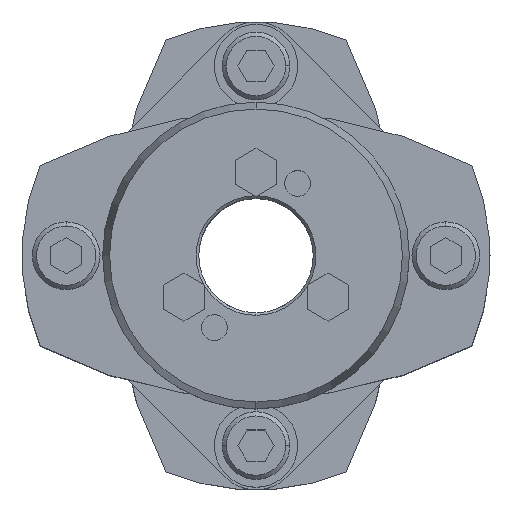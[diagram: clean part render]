
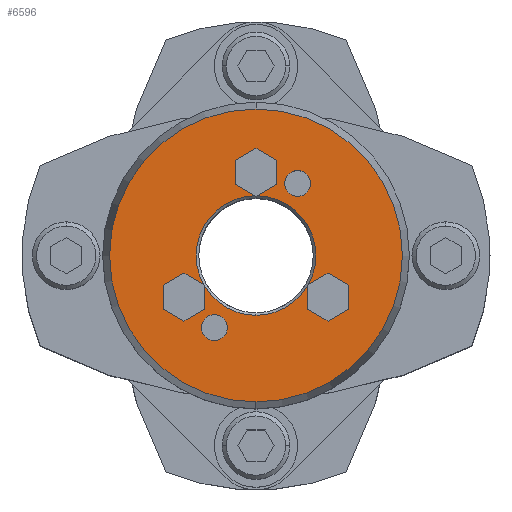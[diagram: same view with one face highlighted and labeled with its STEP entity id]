
A CAD part, top view. The second image highlights one B-rep face of the part: STEP entity #6596.
In plain terms, the highlighted planar face has unit normal (0, 0, 1).
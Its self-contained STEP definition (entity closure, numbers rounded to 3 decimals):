
#1694=CARTESIAN_POINT('',(0.,-11.5,52.0));
#1695=VERTEX_POINT('',#1694);
#1702=CARTESIAN_POINT('',(9.856,-5.925,52.0));
#1703=VERTEX_POINT('',#1702);
#1704=CARTESIAN_POINT('',(0.,0.,52.0));
#1705=DIRECTION('',(0.0,0.0,1.0));
#1706=DIRECTION('',(0.0,1.0,0.0));
#1707=AXIS2_PLACEMENT_3D('',#1704,#1705,#1706);
#1708=CIRCLE('',#1707,11.5);
#1709=EDGE_CURVE('',#1695,#1703,#1708,.T.);
#1711=CARTESIAN_POINT('',(10.059,-5.574,52.0));
#1712=VERTEX_POINT('',#1711);
#1720=CARTESIAN_POINT('',(0.203,11.498,52.0));
#1721=VERTEX_POINT('',#1720);
#1722=CARTESIAN_POINT('',(0.,0.,52.0));
#1723=DIRECTION('',(0.0,0.0,1.0));
#1724=DIRECTION('',(0.0,1.0,0.0));
#1725=AXIS2_PLACEMENT_3D('',#1722,#1723,#1724);
#1726=CIRCLE('',#1725,11.5);
#1727=EDGE_CURVE('',#1712,#1721,#1726,.T.);
#1892=CARTESIAN_POINT('',(0.,-28.16,52.0));
#1893=VERTEX_POINT('',#1892);
#1900=CARTESIAN_POINT('',(0.,28.16,52.0));
#1901=VERTEX_POINT('',#1900);
#1902=CARTESIAN_POINT('',(0.,0.,52.0));
#1903=DIRECTION('',(0.0,0.0,-1.0));
#1904=DIRECTION('',(0.0,-1.0,0.0));
#1905=AXIS2_PLACEMENT_3D('',#1902,#1903,#1904);
#1906=CIRCLE('',#1905,28.16);
#1907=EDGE_CURVE('',#1893,#1901,#1906,.T.);
#2150=CARTESIAN_POINT('',(8.,16.356,52.0));
#2151=VERTEX_POINT('',#2150);
#2167=CARTESIAN_POINT('',(8.,11.356,52.0));
#2168=VERTEX_POINT('',#2167);
#2175=CARTESIAN_POINT('',(8.,13.856,52.0));
#2176=DIRECTION('',(0.0,0.0,-1.0));
#2177=DIRECTION('',(0.0,1.0,0.0));
#2178=AXIS2_PLACEMENT_3D('',#2175,#2176,#2177);
#2179=CIRCLE('',#2178,2.5);
#2180=EDGE_CURVE('',#2151,#2168,#2179,.T.);
#2192=CARTESIAN_POINT('',(-8.,-11.356,52.0));
#2193=VERTEX_POINT('',#2192);
#2209=CARTESIAN_POINT('',(-8.,-16.356,52.0));
#2210=VERTEX_POINT('',#2209);
#2217=CARTESIAN_POINT('',(-8.,-13.856,52.0));
#2218=DIRECTION('',(0.0,0.0,-1.0));
#2219=DIRECTION('',(0.0,1.0,0.0));
#2220=AXIS2_PLACEMENT_3D('',#2217,#2218,#2219);
#2221=CIRCLE('',#2220,2.5);
#2222=EDGE_CURVE('',#2193,#2210,#2221,.T.);
#5022=CARTESIAN_POINT('',(13.856,-3.381,52.0));
#5023=VERTEX_POINT('',#5022);
#5030=CARTESIAN_POINT('',(10.059,-5.574,52.0));
#5031=DIRECTION('',(0.866,0.5,0.0));
#5032=VECTOR('',#5031,4.385);
#5033=LINE('',#5030,#5032);
#5034=EDGE_CURVE('',#1712,#5023,#5033,.T.);
#5066=CARTESIAN_POINT('',(17.856,-5.691,52.0));
#5067=VERTEX_POINT('',#5066);
#5074=CARTESIAN_POINT('',(13.856,-3.381,52.0));
#5075=DIRECTION('',(0.866,-0.5,0.0));
#5076=VECTOR('',#5075,4.619);
#5077=LINE('',#5074,#5076);
#5078=EDGE_CURVE('',#5023,#5067,#5077,.T.);
#5097=CARTESIAN_POINT('',(17.856,-10.309,52.0));
#5098=VERTEX_POINT('',#5097);
#5105=CARTESIAN_POINT('',(17.856,-5.691,52.0));
#5106=DIRECTION('',(0.0,-1.0,0.0));
#5107=VECTOR('',#5106,4.619);
#5108=LINE('',#5105,#5107);
#5109=EDGE_CURVE('',#5067,#5098,#5108,.T.);
#5128=CARTESIAN_POINT('',(13.856,-12.619,52.0));
#5129=VERTEX_POINT('',#5128);
#5136=CARTESIAN_POINT('',(17.856,-10.309,52.0));
#5137=DIRECTION('',(-0.866,-0.5,0.0));
#5138=VECTOR('',#5137,4.619);
#5139=LINE('',#5136,#5138);
#5140=EDGE_CURVE('',#5098,#5129,#5139,.T.);
#5159=CARTESIAN_POINT('',(9.856,-10.309,52.0));
#5160=VERTEX_POINT('',#5159);
#5167=CARTESIAN_POINT('',(13.856,-12.619,52.0));
#5168=DIRECTION('',(-0.866,0.5,0.0));
#5169=VECTOR('',#5168,4.619);
#5170=LINE('',#5167,#5169);
#5171=EDGE_CURVE('',#5129,#5160,#5170,.T.);
#5195=CARTESIAN_POINT('',(9.856,-10.309,52.0));
#5196=DIRECTION('',(0.0,1.0,0.0));
#5197=VECTOR('',#5196,4.385);
#5198=LINE('',#5195,#5197);
#5199=EDGE_CURVE('',#5160,#1703,#5198,.T.);
#5245=CARTESIAN_POINT('',(0.,20.619,52.0));
#5246=VERTEX_POINT('',#5245);
#5253=CARTESIAN_POINT('',(-4.,18.309,52.0));
#5254=VERTEX_POINT('',#5253);
#5255=CARTESIAN_POINT('',(-4.,18.309,52.0));
#5256=DIRECTION('',(0.866,0.5,0.0));
#5257=VECTOR('',#5256,4.619);
#5258=LINE('',#5255,#5257);
#5259=EDGE_CURVE('',#5254,#5246,#5258,.T.);
#5283=CARTESIAN_POINT('',(4.,18.309,52.0));
#5284=VERTEX_POINT('',#5283);
#5291=CARTESIAN_POINT('',(0.,20.619,52.0));
#5292=DIRECTION('',(0.866,-0.5,0.0));
#5293=VECTOR('',#5292,4.619);
#5294=LINE('',#5291,#5293);
#5295=EDGE_CURVE('',#5246,#5284,#5294,.T.);
#5314=CARTESIAN_POINT('',(4.,13.691,52.0));
#5315=VERTEX_POINT('',#5314);
#5322=CARTESIAN_POINT('',(4.,18.309,52.0));
#5323=DIRECTION('',(0.0,-1.0,0.0));
#5324=VECTOR('',#5323,4.619);
#5325=LINE('',#5322,#5324);
#5326=EDGE_CURVE('',#5284,#5315,#5325,.T.);
#5359=CARTESIAN_POINT('',(4.,13.691,52.0));
#5360=DIRECTION('',(-0.866,-0.5,0.0));
#5361=VECTOR('',#5360,4.385);
#5362=LINE('',#5359,#5361);
#5363=EDGE_CURVE('',#5315,#1721,#5362,.T.);
#5382=CARTESIAN_POINT('',(-4.,13.691,52.0));
#5383=VERTEX_POINT('',#5382);
#5390=CARTESIAN_POINT('',(-0.203,11.498,52.0));
#5391=VERTEX_POINT('',#5390);
#5392=CARTESIAN_POINT('',(-0.203,11.498,52.0));
#5393=DIRECTION('',(-0.866,0.5,0.0));
#5394=VECTOR('',#5393,4.385);
#5395=LINE('',#5392,#5394);
#5396=EDGE_CURVE('',#5391,#5383,#5395,.T.);
#5420=CARTESIAN_POINT('',(-4.,13.691,52.0));
#5421=DIRECTION('',(0.0,1.0,0.0));
#5422=VECTOR('',#5421,4.619);
#5423=LINE('',#5420,#5422);
#5424=EDGE_CURVE('',#5383,#5254,#5423,.T.);
#5477=CARTESIAN_POINT('',(-13.856,-3.381,52.0));
#5478=VERTEX_POINT('',#5477);
#5485=CARTESIAN_POINT('',(-17.856,-5.691,52.0));
#5486=VERTEX_POINT('',#5485);
#5487=CARTESIAN_POINT('',(-17.856,-5.691,52.0));
#5488=DIRECTION('',(0.866,0.5,0.0));
#5489=VECTOR('',#5488,4.619);
#5490=LINE('',#5487,#5489);
#5491=EDGE_CURVE('',#5486,#5478,#5490,.T.);
#5523=CARTESIAN_POINT('',(-10.059,-5.574,52.0));
#5524=VERTEX_POINT('',#5523);
#5531=CARTESIAN_POINT('',(-13.856,-3.381,52.0));
#5532=DIRECTION('',(0.866,-0.5,0.0));
#5533=VECTOR('',#5532,4.385);
#5534=LINE('',#5531,#5533);
#5535=EDGE_CURVE('',#5478,#5524,#5534,.T.);
#5554=CARTESIAN_POINT('',(-9.856,-10.309,52.0));
#5555=VERTEX_POINT('',#5554);
#5562=CARTESIAN_POINT('',(-9.856,-5.925,52.0));
#5563=VERTEX_POINT('',#5562);
#5564=CARTESIAN_POINT('',(-9.856,-5.925,52.0));
#5565=DIRECTION('',(0.0,-1.0,0.0));
#5566=VECTOR('',#5565,4.385);
#5567=LINE('',#5564,#5566);
#5568=EDGE_CURVE('',#5563,#5555,#5567,.T.);
#5593=CARTESIAN_POINT('',(-13.856,-12.619,52.0));
#5594=VERTEX_POINT('',#5593);
#5601=CARTESIAN_POINT('',(-9.856,-10.309,52.0));
#5602=DIRECTION('',(-0.866,-0.5,0.0));
#5603=VECTOR('',#5602,4.619);
#5604=LINE('',#5601,#5603);
#5605=EDGE_CURVE('',#5555,#5594,#5604,.T.);
#5624=CARTESIAN_POINT('',(-17.856,-10.309,52.0));
#5625=VERTEX_POINT('',#5624);
#5632=CARTESIAN_POINT('',(-13.856,-12.619,52.0));
#5633=DIRECTION('',(-0.866,0.5,0.0));
#5634=VECTOR('',#5633,4.619);
#5635=LINE('',#5632,#5634);
#5636=EDGE_CURVE('',#5594,#5625,#5635,.T.);
#5654=CARTESIAN_POINT('',(-17.856,-10.309,52.0));
#5655=DIRECTION('',(0.0,1.0,0.0));
#5656=VECTOR('',#5655,4.619);
#5657=LINE('',#5654,#5656);
#5658=EDGE_CURVE('',#5625,#5486,#5657,.T.);
#5701=CARTESIAN_POINT('',(-8.,-13.856,52.0));
#5702=DIRECTION('',(0.0,0.0,-1.0));
#5703=DIRECTION('',(0.0,1.0,0.0));
#5704=AXIS2_PLACEMENT_3D('',#5701,#5702,#5703);
#5705=CIRCLE('',#5704,2.5);
#5706=EDGE_CURVE('',#2210,#2193,#5705,.T.);
#5735=CARTESIAN_POINT('',(8.,13.856,52.0));
#5736=DIRECTION('',(0.0,0.0,-1.0));
#5737=DIRECTION('',(0.0,1.0,0.0));
#5738=AXIS2_PLACEMENT_3D('',#5735,#5736,#5737);
#5739=CIRCLE('',#5738,2.5);
#5740=EDGE_CURVE('',#2168,#2151,#5739,.T.);
#6533=CARTESIAN_POINT('',(0.,0.,52.0));
#6534=DIRECTION('',(0.0,0.0,-1.0));
#6535=DIRECTION('',(0.0,-1.0,0.0));
#6536=AXIS2_PLACEMENT_3D('',#6533,#6534,#6535);
#6537=CIRCLE('',#6536,28.16);
#6538=EDGE_CURVE('',#1901,#1893,#6537,.T.);
#6543=CARTESIAN_POINT('',(0.,2.682,52.0));
#6544=DIRECTION('',(0.0,0.0,1.0));
#6545=DIRECTION('',(0.0,1.0,0.0));
#6546=AXIS2_PLACEMENT_3D('',#6543,#6544,#6545);
#6547=PLANE('',#6546);
#6548=ORIENTED_EDGE('',*,*,#6538,.F.);
#6549=ORIENTED_EDGE('',*,*,#1907,.F.);
#6550=EDGE_LOOP('',(#6548,#6549));
#6551=FACE_OUTER_BOUND('',#6550,.T.);
#6552=ORIENTED_EDGE('',*,*,#5199,.T.);
#6553=ORIENTED_EDGE('',*,*,#1709,.F.);
#6554=CARTESIAN_POINT('',(0.,0.,52.0));
#6555=DIRECTION('',(0.0,0.0,1.0));
#6556=DIRECTION('',(0.0,1.0,0.0));
#6557=AXIS2_PLACEMENT_3D('',#6554,#6555,#6556);
#6558=CIRCLE('',#6557,11.5);
#6559=EDGE_CURVE('',#5563,#1695,#6558,.T.);
#6560=ORIENTED_EDGE('',*,*,#6559,.F.);
#6561=ORIENTED_EDGE('',*,*,#5568,.T.);
#6562=ORIENTED_EDGE('',*,*,#5605,.T.);
#6563=ORIENTED_EDGE('',*,*,#5636,.T.);
#6564=ORIENTED_EDGE('',*,*,#5658,.T.);
#6565=ORIENTED_EDGE('',*,*,#5491,.T.);
#6566=ORIENTED_EDGE('',*,*,#5535,.T.);
#6567=CARTESIAN_POINT('',(0.,0.,52.0));
#6568=DIRECTION('',(0.0,0.0,1.0));
#6569=DIRECTION('',(0.0,1.0,0.0));
#6570=AXIS2_PLACEMENT_3D('',#6567,#6568,#6569);
#6571=CIRCLE('',#6570,11.5);
#6572=EDGE_CURVE('',#5391,#5524,#6571,.T.);
#6573=ORIENTED_EDGE('',*,*,#6572,.F.);
#6574=ORIENTED_EDGE('',*,*,#5396,.T.);
#6575=ORIENTED_EDGE('',*,*,#5424,.T.);
#6576=ORIENTED_EDGE('',*,*,#5259,.T.);
#6577=ORIENTED_EDGE('',*,*,#5295,.T.);
#6578=ORIENTED_EDGE('',*,*,#5326,.T.);
#6579=ORIENTED_EDGE('',*,*,#5363,.T.);
#6580=ORIENTED_EDGE('',*,*,#1727,.F.);
#6581=ORIENTED_EDGE('',*,*,#5034,.T.);
#6582=ORIENTED_EDGE('',*,*,#5078,.T.);
#6583=ORIENTED_EDGE('',*,*,#5109,.T.);
#6584=ORIENTED_EDGE('',*,*,#5140,.T.);
#6585=ORIENTED_EDGE('',*,*,#5171,.T.);
#6586=EDGE_LOOP('',(#6552,#6553,#6560,#6561,#6562,#6563,#6564,#6565,#6566,#6573,#6574,#6575,#6576,#6577,#6578,#6579,#6580,#6581,#6582,#6583,#6584,#6585));
#6587=FACE_BOUND('',#6586,.T.);
#6588=ORIENTED_EDGE('',*,*,#2222,.T.);
#6589=ORIENTED_EDGE('',*,*,#5706,.T.);
#6590=EDGE_LOOP('',(#6588,#6589));
#6591=FACE_BOUND('',#6590,.T.);
#6592=ORIENTED_EDGE('',*,*,#2180,.T.);
#6593=ORIENTED_EDGE('',*,*,#5740,.T.);
#6594=EDGE_LOOP('',(#6592,#6593));
#6595=FACE_BOUND('',#6594,.T.);
#6596=ADVANCED_FACE('',(#6551,#6587,#6591,#6595),#6547,.T.);
